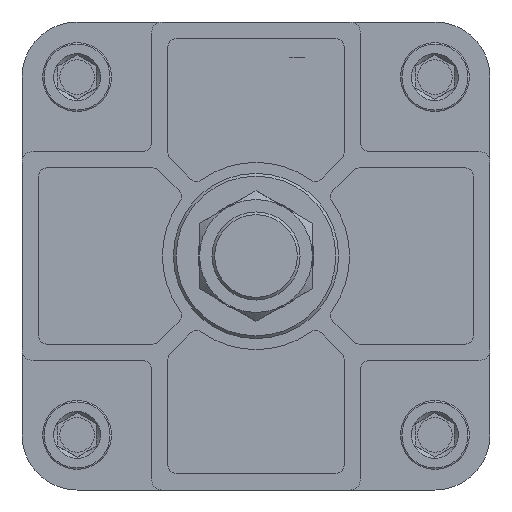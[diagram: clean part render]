
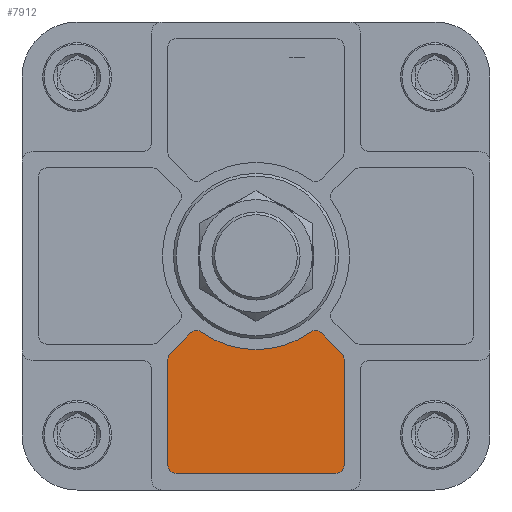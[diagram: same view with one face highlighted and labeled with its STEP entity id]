
A CAD part, front view. The second image highlights one B-rep face of the part: STEP entity #7912.
In plain terms, the highlighted planar face has unit normal (0, -1, 0).
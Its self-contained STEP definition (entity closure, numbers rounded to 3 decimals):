
#297=LINE('',#11014,#773);
#298=LINE('',#11023,#774);
#299=LINE('',#11027,#775);
#300=LINE('',#11031,#776);
#301=LINE('',#11035,#777);
#773=VECTOR('',#9085,1000.);
#774=VECTOR('',#9092,1000.);
#775=VECTOR('',#9095,1000.);
#776=VECTOR('',#9098,1000.);
#777=VECTOR('',#9101,1000.);
#1262=ORIENTED_EDGE('',*,*,#2947,.F.);
#1263=ORIENTED_EDGE('',*,*,#2948,.T.);
#1264=ORIENTED_EDGE('',*,*,#2949,.F.);
#1265=ORIENTED_EDGE('',*,*,#2950,.T.);
#1266=ORIENTED_EDGE('',*,*,#2951,.F.);
#1267=ORIENTED_EDGE('',*,*,#2952,.T.);
#1268=ORIENTED_EDGE('',*,*,#2953,.F.);
#1269=ORIENTED_EDGE('',*,*,#2954,.T.);
#1270=ORIENTED_EDGE('',*,*,#2955,.F.);
#1271=ORIENTED_EDGE('',*,*,#2956,.T.);
#1272=ORIENTED_EDGE('',*,*,#2957,.F.);
#1273=ORIENTED_EDGE('',*,*,#2958,.T.);
#2947=EDGE_CURVE('',#3792,#3793,#297,.T.);
#2948=EDGE_CURVE('',#3792,#3794,#4383,.F.);
#2949=EDGE_CURVE('',#3795,#3794,#4384,.T.);
#2950=EDGE_CURVE('',#3795,#3796,#4385,.F.);
#2951=EDGE_CURVE('',#3797,#3796,#298,.T.);
#2952=EDGE_CURVE('',#3797,#3798,#4386,.F.);
#2953=EDGE_CURVE('',#3799,#3798,#299,.T.);
#2954=EDGE_CURVE('',#3799,#3800,#4387,.F.);
#2955=EDGE_CURVE('',#3801,#3800,#300,.T.);
#2956=EDGE_CURVE('',#3801,#3802,#4388,.F.);
#2957=EDGE_CURVE('',#3803,#3802,#301,.T.);
#2958=EDGE_CURVE('',#3803,#3793,#4389,.F.);
#3792=VERTEX_POINT('',#11015);
#3793=VERTEX_POINT('',#11016);
#3794=VERTEX_POINT('',#11018);
#3795=VERTEX_POINT('',#11020);
#3796=VERTEX_POINT('',#11022);
#3797=VERTEX_POINT('',#11024);
#3798=VERTEX_POINT('',#11026);
#3799=VERTEX_POINT('',#11028);
#3800=VERTEX_POINT('',#11030);
#3801=VERTEX_POINT('',#11032);
#3802=VERTEX_POINT('',#11034);
#3803=VERTEX_POINT('',#11036);
#4383=CIRCLE('',#8333,3.);
#4384=CIRCLE('',#8334,34.);
#4385=CIRCLE('',#8335,3.);
#4386=CIRCLE('',#8336,3.);
#4387=CIRCLE('',#8337,3.);
#4388=CIRCLE('',#8338,3.);
#4389=CIRCLE('',#8339,3.);
#4728=EDGE_LOOP('',(#1262,#1263,#1264,#1265,#1266,#1267,#1268,#1269,#1270,
#1271,#1272,#1273));
#5254=FACE_BOUND('',#4728,.T.);
#5770=PLANE('',#8332);
#7912=ADVANCED_FACE('',(#5254),#5770,.F.);
#8332=AXIS2_PLACEMENT_3D('',#11013,#9083,#9084);
#8333=AXIS2_PLACEMENT_3D('',#11017,#9086,#9087);
#8334=AXIS2_PLACEMENT_3D('',#11019,#9088,#9089);
#8335=AXIS2_PLACEMENT_3D('',#11021,#9090,#9091);
#8336=AXIS2_PLACEMENT_3D('',#11025,#9093,#9094);
#8337=AXIS2_PLACEMENT_3D('',#11029,#9096,#9097);
#8338=AXIS2_PLACEMENT_3D('',#11033,#9099,#9100);
#8339=AXIS2_PLACEMENT_3D('',#11037,#9102,#9103);
#9083=DIRECTION('',(0.,1.,0.));
#9084=DIRECTION('',(0.,0.,1.));
#9085=DIRECTION('',(0.707,0.,-0.707));
#9086=DIRECTION('',(0.,1.,0.));
#9087=DIRECTION('',(0.,0.,1.));
#9088=DIRECTION('',(0.,-1.,0.));
#9089=DIRECTION('',(1.,0.,0.));
#9090=DIRECTION('',(0.,1.,0.));
#9091=DIRECTION('',(0.,0.,1.));
#9092=DIRECTION('',(0.707,0.,0.707));
#9093=DIRECTION('',(0.,1.,0.));
#9094=DIRECTION('',(0.,0.,1.));
#9095=DIRECTION('',(0.,0.,1.));
#9096=DIRECTION('',(0.,1.,0.));
#9097=DIRECTION('',(0.,0.,1.));
#9098=DIRECTION('',(-1.,0.,0.));
#9099=DIRECTION('',(0.,1.,0.));
#9100=DIRECTION('',(0.,0.,1.));
#9101=DIRECTION('',(0.,0.,-1.));
#9102=DIRECTION('',(0.,1.,0.));
#9103=DIRECTION('',(0.,0.,1.));
#11013=CARTESIAN_POINT('',(0.,-29.,0.));
#11014=CARTESIAN_POINT('',(21.827,-29.,-26.069));
#11015=CARTESIAN_POINT('',(23.695,-29.,-27.938));
#11016=CARTESIAN_POINT('',(31.121,-29.,-35.364));
#11017=CARTESIAN_POINT('',(21.574,-29.,-30.059));
#11018=CARTESIAN_POINT('',(19.825,-29.,-27.622));
#11019=CARTESIAN_POINT('',(0.,-29.,0.));
#11020=CARTESIAN_POINT('',(-19.825,-29.,-27.622));
#11021=CARTESIAN_POINT('',(-21.574,-29.,-30.059));
#11022=CARTESIAN_POINT('',(-23.695,-29.,-27.938));
#11023=CARTESIAN_POINT('',(-21.827,-29.,-26.069));
#11024=CARTESIAN_POINT('',(-31.121,-29.,-35.364));
#11025=CARTESIAN_POINT('',(-29.,-29.,-37.485));
#11026=CARTESIAN_POINT('',(-32.,-29.,-37.485));
#11027=CARTESIAN_POINT('',(-32.,-29.,-38.));
#11028=CARTESIAN_POINT('',(-32.,-29.,-76.));
#11029=CARTESIAN_POINT('',(-29.,-29.,-76.));
#11030=CARTESIAN_POINT('',(-29.,-29.,-79.));
#11031=CARTESIAN_POINT('',(-32.,-29.,-79.));
#11032=CARTESIAN_POINT('',(29.,-29.,-79.));
#11033=CARTESIAN_POINT('',(29.,-29.,-76.));
#11034=CARTESIAN_POINT('',(32.,-29.,-76.));
#11035=CARTESIAN_POINT('',(32.,-29.,-79.));
#11036=CARTESIAN_POINT('',(32.,-29.,-37.485));
#11037=CARTESIAN_POINT('',(29.,-29.,-37.485));
